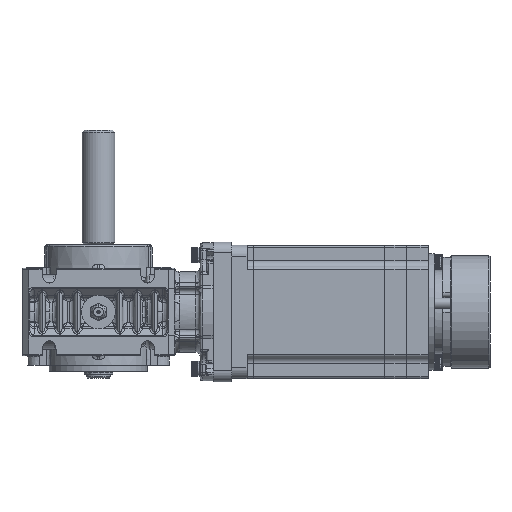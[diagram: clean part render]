
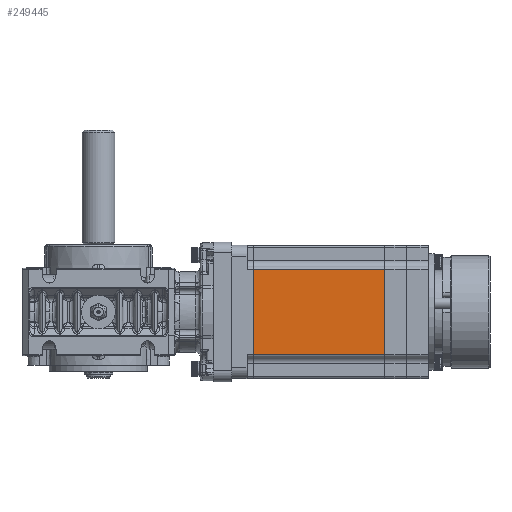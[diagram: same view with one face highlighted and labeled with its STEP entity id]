
A CAD part, front view. The second image highlights one B-rep face of the part: STEP entity #249445.
In plain terms, the highlighted planar face has unit normal (0, -1, 0).
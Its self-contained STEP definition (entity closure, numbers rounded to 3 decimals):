
#7337 = CARTESIAN_POINT ( 'NONE',  ( 25.122, -16.123, 16.875 ) ) ;
#10364 = VERTEX_POINT ( 'NONE', #7337 ) ;
#14672 = DIRECTION ( 'NONE',  ( 0., -1., 0. ) ) ;
#16020 = DIRECTION ( 'NONE',  ( 1., 0., 0. ) ) ;
#31711 = VECTOR ( 'NONE', #79713, 1000. ) ;
#32869 = DIRECTION ( 'NONE',  ( 0., 0., -1. ) ) ;
#35437 = CARTESIAN_POINT ( 'NONE',  ( 45.122, -16.123, 61.875 ) ) ;
#35588 = CARTESIAN_POINT ( 'NONE',  ( 25.122, -16.123, 61.875 ) ) ;
#36684 = VERTEX_POINT ( 'NONE', #199358 ) ;
#38010 = LINE ( 'NONE', #205151, #261111 ) ;
#58166 = EDGE_CURVE ( 'NONE', #36684, #245282, #78320, .T. ) ;
#78320 = LINE ( 'NONE', #230090, #31711 ) ;
#79713 = DIRECTION ( 'NONE',  ( -1., 0., 0. ) ) ;
#98937 = CARTESIAN_POINT ( 'NONE',  ( -34.878, -16.123, 55.875 ) ) ;
#128693 = ORIENTED_EDGE ( 'NONE', *, *, #240858, .F. ) ;
#132416 = ORIENTED_EDGE ( 'NONE', *, *, #161092, .T. ) ;
#133001 = DIRECTION ( 'NONE',  ( 1., 0., 0. ) ) ;
#133914 = ORIENTED_EDGE ( 'NONE', *, *, #58166, .T. ) ;
#135713 = VECTOR ( 'NONE', #133001, 1000. ) ;
#139173 = LINE ( 'NONE', #35588, #213306 ) ;
#139313 = ORIENTED_EDGE ( 'NONE', *, *, #221990, .F. ) ;
#144818 = CARTESIAN_POINT ( 'NONE',  ( -34.878, -16.123, 16.875 ) ) ;
#161092 = EDGE_CURVE ( 'NONE', #231959, #10364, #168901, .T. ) ;
#163640 = DIRECTION ( 'NONE',  ( 0., 0., 1. ) ) ;
#168901 = LINE ( 'NONE', #215873, #135713 ) ;
#199358 = CARTESIAN_POINT ( 'NONE',  ( 25.122, -16.123, 55.875 ) ) ;
#203961 = PLANE ( 'NONE',  #215499 ) ;
#205151 = CARTESIAN_POINT ( 'NONE',  ( -34.878, -16.123, 61.875 ) ) ;
#213306 = VECTOR ( 'NONE', #32869, 1000. ) ;
#215499 = AXIS2_PLACEMENT_3D ( 'NONE', #35437, #14672, #16020 ) ;
#215873 = CARTESIAN_POINT ( 'NONE',  ( 45.122, -16.123, 16.875 ) ) ;
#220301 = EDGE_LOOP ( 'NONE', ( #139313, #133914, #128693, #132416 ) ) ;
#221990 = EDGE_CURVE ( 'NONE', #36684, #10364, #139173, .T. ) ;
#230090 = CARTESIAN_POINT ( 'NONE',  ( -37.878, -16.123, 55.875 ) ) ;
#231959 = VERTEX_POINT ( 'NONE', #144818 ) ;
#240858 = EDGE_CURVE ( 'NONE', #231959, #245282, #38010, .T. ) ;
#245282 = VERTEX_POINT ( 'NONE', #98937 ) ;
#249445 = ADVANCED_FACE ( 'NONE', ( #271688 ), #203961, .T. ) ;
#261111 = VECTOR ( 'NONE', #163640, 1000. ) ;
#271688 = FACE_OUTER_BOUND ( 'NONE', #220301, .T. ) ;
